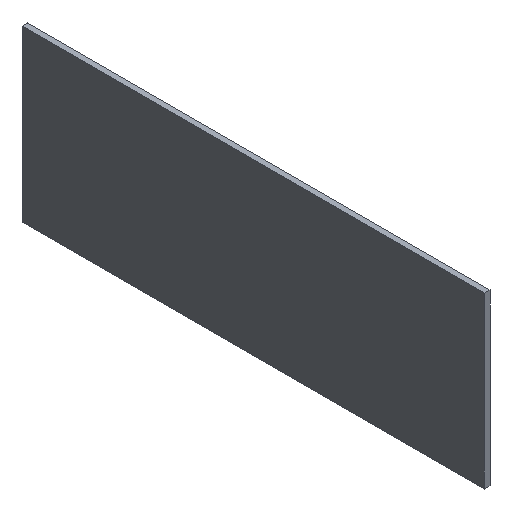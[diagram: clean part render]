
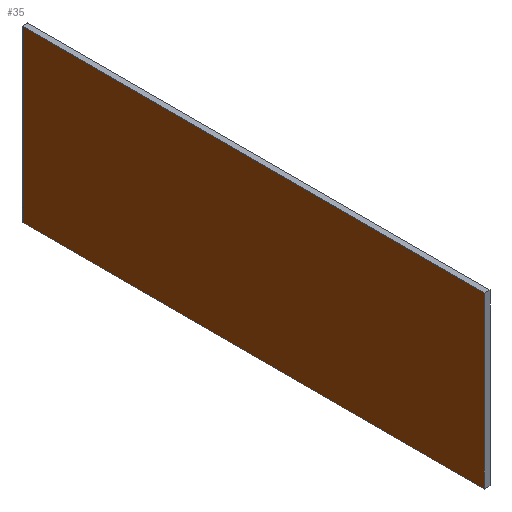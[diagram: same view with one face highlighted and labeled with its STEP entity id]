
A CAD part, isometric view. The second image highlights one B-rep face of the part: STEP entity #35.
In plain terms, the highlighted planar face has unit normal (-1, 0, 0).
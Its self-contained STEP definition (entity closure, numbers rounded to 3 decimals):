
#35 = ADVANCED_FACE('',(#36),#50,.F.);
#36 = FACE_BOUND('',#37,.F.);
#37 = EDGE_LOOP('',(#38,#73,#101,#129));
#38 = ORIENTED_EDGE('',*,*,#39,.F.);
#39 = EDGE_CURVE('',#40,#42,#44,.T.);
#40 = VERTEX_POINT('',#41);
#41 = CARTESIAN_POINT('',(-0.065,-5.45,-2.));
#42 = VERTEX_POINT('',#43);
#43 = CARTESIAN_POINT('',(-0.065,-5.45,2.));
#44 = SURFACE_CURVE('',#45,(#49,#61),.PCURVE_S1.);
#45 = LINE('',#46,#47);
#46 = CARTESIAN_POINT('',(-0.065,-5.45,-2.));
#47 = VECTOR('',#48,1.);
#48 = DIRECTION('',(0.,0.,1.));
#49 = PCURVE('',#50,#55);
#50 = PLANE('',#51);
#51 = AXIS2_PLACEMENT_3D('',#52,#53,#54);
#52 = CARTESIAN_POINT('',(-0.065,-5.45,-2.));
#53 = DIRECTION('',(1.,0.,-0.));
#54 = DIRECTION('',(0.,0.,1.));
#55 = DEFINITIONAL_REPRESENTATION('',(#56),#60);
#56 = LINE('',#57,#58);
#57 = CARTESIAN_POINT('',(0.,0.));
#58 = VECTOR('',#59,1.);
#59 = DIRECTION('',(1.,0.));
#60 = ( GEOMETRIC_REPRESENTATION_CONTEXT(2) 
PARAMETRIC_REPRESENTATION_CONTEXT() REPRESENTATION_CONTEXT('2D SPACE',''
  ) );
#61 = PCURVE('',#62,#67);
#62 = PLANE('',#63);
#63 = AXIS2_PLACEMENT_3D('',#64,#65,#66);
#64 = CARTESIAN_POINT('',(-0.065,-5.45,-2.));
#65 = DIRECTION('',(-0.,1.,0.));
#66 = DIRECTION('',(0.,0.,1.));
#67 = DEFINITIONAL_REPRESENTATION('',(#68),#72);
#68 = LINE('',#69,#70);
#69 = CARTESIAN_POINT('',(0.,0.));
#70 = VECTOR('',#71,1.);
#71 = DIRECTION('',(1.,0.));
#72 = ( GEOMETRIC_REPRESENTATION_CONTEXT(2) 
PARAMETRIC_REPRESENTATION_CONTEXT() REPRESENTATION_CONTEXT('2D SPACE',''
  ) );
#73 = ORIENTED_EDGE('',*,*,#74,.T.);
#74 = EDGE_CURVE('',#40,#75,#77,.T.);
#75 = VERTEX_POINT('',#76);
#76 = CARTESIAN_POINT('',(-0.065,5.45,-2.));
#77 = SURFACE_CURVE('',#78,(#82,#89),.PCURVE_S1.);
#78 = LINE('',#79,#80);
#79 = CARTESIAN_POINT('',(-0.065,-5.45,-2.));
#80 = VECTOR('',#81,1.);
#81 = DIRECTION('',(-0.,1.,0.));
#82 = PCURVE('',#50,#83);
#83 = DEFINITIONAL_REPRESENTATION('',(#84),#88);
#84 = LINE('',#85,#86);
#85 = CARTESIAN_POINT('',(0.,0.));
#86 = VECTOR('',#87,1.);
#87 = DIRECTION('',(0.,-1.));
#88 = ( GEOMETRIC_REPRESENTATION_CONTEXT(2) 
PARAMETRIC_REPRESENTATION_CONTEXT() REPRESENTATION_CONTEXT('2D SPACE',''
  ) );
#89 = PCURVE('',#90,#95);
#90 = PLANE('',#91);
#91 = AXIS2_PLACEMENT_3D('',#92,#93,#94);
#92 = CARTESIAN_POINT('',(-0.065,-5.45,-2.));
#93 = DIRECTION('',(0.,0.,1.));
#94 = DIRECTION('',(1.,0.,-0.));
#95 = DEFINITIONAL_REPRESENTATION('',(#96),#100);
#96 = LINE('',#97,#98);
#97 = CARTESIAN_POINT('',(0.,0.));
#98 = VECTOR('',#99,1.);
#99 = DIRECTION('',(0.,1.));
#100 = ( GEOMETRIC_REPRESENTATION_CONTEXT(2) 
PARAMETRIC_REPRESENTATION_CONTEXT() REPRESENTATION_CONTEXT('2D SPACE',''
  ) );
#101 = ORIENTED_EDGE('',*,*,#102,.T.);
#102 = EDGE_CURVE('',#75,#103,#105,.T.);
#103 = VERTEX_POINT('',#104);
#104 = CARTESIAN_POINT('',(-0.065,5.45,2.));
#105 = SURFACE_CURVE('',#106,(#110,#117),.PCURVE_S1.);
#106 = LINE('',#107,#108);
#107 = CARTESIAN_POINT('',(-0.065,5.45,-2.));
#108 = VECTOR('',#109,1.);
#109 = DIRECTION('',(0.,0.,1.));
#110 = PCURVE('',#50,#111);
#111 = DEFINITIONAL_REPRESENTATION('',(#112),#116);
#112 = LINE('',#113,#114);
#113 = CARTESIAN_POINT('',(0.,-10.9));
#114 = VECTOR('',#115,1.);
#115 = DIRECTION('',(1.,0.));
#116 = ( GEOMETRIC_REPRESENTATION_CONTEXT(2) 
PARAMETRIC_REPRESENTATION_CONTEXT() REPRESENTATION_CONTEXT('2D SPACE',''
  ) );
#117 = PCURVE('',#118,#123);
#118 = PLANE('',#119);
#119 = AXIS2_PLACEMENT_3D('',#120,#121,#122);
#120 = CARTESIAN_POINT('',(-0.065,5.45,-2.));
#121 = DIRECTION('',(-0.,1.,0.));
#122 = DIRECTION('',(0.,0.,1.));
#123 = DEFINITIONAL_REPRESENTATION('',(#124),#128);
#124 = LINE('',#125,#126);
#125 = CARTESIAN_POINT('',(0.,0.));
#126 = VECTOR('',#127,1.);
#127 = DIRECTION('',(1.,0.));
#128 = ( GEOMETRIC_REPRESENTATION_CONTEXT(2) 
PARAMETRIC_REPRESENTATION_CONTEXT() REPRESENTATION_CONTEXT('2D SPACE',''
  ) );
#129 = ORIENTED_EDGE('',*,*,#130,.F.);
#130 = EDGE_CURVE('',#42,#103,#131,.T.);
#131 = SURFACE_CURVE('',#132,(#136,#143),.PCURVE_S1.);
#132 = LINE('',#133,#134);
#133 = CARTESIAN_POINT('',(-0.065,-5.45,2.));
#134 = VECTOR('',#135,1.);
#135 = DIRECTION('',(-0.,1.,0.));
#136 = PCURVE('',#50,#137);
#137 = DEFINITIONAL_REPRESENTATION('',(#138),#142);
#138 = LINE('',#139,#140);
#139 = CARTESIAN_POINT('',(4.,0.));
#140 = VECTOR('',#141,1.);
#141 = DIRECTION('',(0.,-1.));
#142 = ( GEOMETRIC_REPRESENTATION_CONTEXT(2) 
PARAMETRIC_REPRESENTATION_CONTEXT() REPRESENTATION_CONTEXT('2D SPACE',''
  ) );
#143 = PCURVE('',#144,#149);
#144 = PLANE('',#145);
#145 = AXIS2_PLACEMENT_3D('',#146,#147,#148);
#146 = CARTESIAN_POINT('',(-0.065,-5.45,2.));
#147 = DIRECTION('',(0.,0.,1.));
#148 = DIRECTION('',(1.,0.,-0.));
#149 = DEFINITIONAL_REPRESENTATION('',(#150),#154);
#150 = LINE('',#151,#152);
#151 = CARTESIAN_POINT('',(0.,0.));
#152 = VECTOR('',#153,1.);
#153 = DIRECTION('',(0.,1.));
#154 = ( GEOMETRIC_REPRESENTATION_CONTEXT(2) 
PARAMETRIC_REPRESENTATION_CONTEXT() REPRESENTATION_CONTEXT('2D SPACE',''
  ) );
